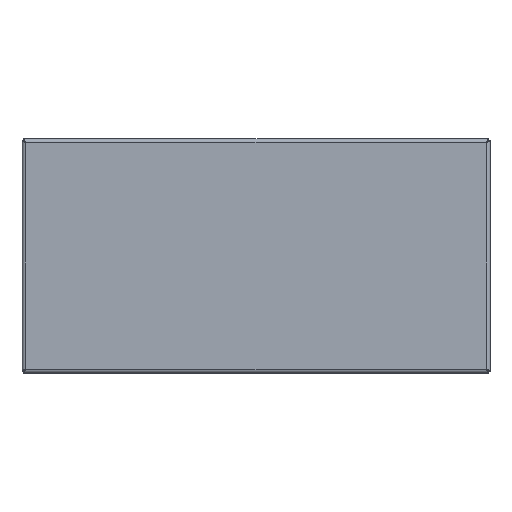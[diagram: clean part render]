
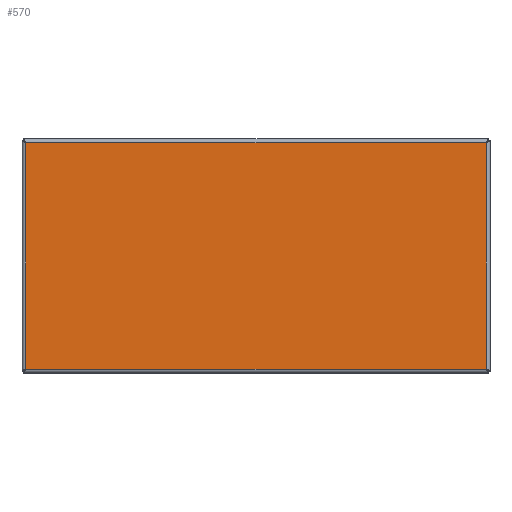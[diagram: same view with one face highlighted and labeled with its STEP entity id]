
A CAD part, top view. The second image highlights one B-rep face of the part: STEP entity #570.
In plain terms, the highlighted planar face has unit normal (0, 0, 1).
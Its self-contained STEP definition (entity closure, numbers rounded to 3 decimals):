
#36=PLANE('',#623);
#82=FACE_OUTER_BOUND('',#120,.T.);
#120=EDGE_LOOP('',(#521,#522,#523,#524));
#150=LINE('',#1297,#210);
#162=LINE('',#1320,#222);
#174=LINE('',#1343,#234);
#186=LINE('',#1366,#246);
#210=VECTOR('',#641,10.);
#222=VECTOR('',#667,10.);
#234=VECTOR('',#693,10.);
#246=VECTOR('',#719,10.);
#258=VERTEX_POINT('',#768);
#264=VERTEX_POINT('',#905);
#270=VERTEX_POINT('',#1042);
#276=VERTEX_POINT('',#1179);
#326=EDGE_CURVE('',#276,#270,#150,.T.);
#338=EDGE_CURVE('',#258,#276,#162,.T.);
#350=EDGE_CURVE('',#270,#264,#174,.T.);
#362=EDGE_CURVE('',#264,#258,#186,.T.);
#521=ORIENTED_EDGE('',*,*,#326,.T.);
#522=ORIENTED_EDGE('',*,*,#350,.T.);
#523=ORIENTED_EDGE('',*,*,#362,.T.);
#524=ORIENTED_EDGE('',*,*,#338,.T.);
#570=ADVANCED_FACE('',(#82),#36,.T.);
#623=AXIS2_PLACEMENT_3D('',#1388,#744,#745);
#641=DIRECTION('',(0.,1.,0.));
#667=DIRECTION('',(1.,0.,0.));
#693=DIRECTION('',(-1.,0.,0.));
#719=DIRECTION('',(0.,-1.,0.));
#744=DIRECTION('center_axis',(0.,0.,1.));
#745=DIRECTION('ref_axis',(1.,0.,0.));
#768=CARTESIAN_POINT('',(-98.43,-48.43,0.));
#905=CARTESIAN_POINT('',(-98.43,48.43,0.));
#1042=CARTESIAN_POINT('',(98.43,48.43,0.));
#1179=CARTESIAN_POINT('',(98.43,-48.43,0.));
#1297=CARTESIAN_POINT('',(98.43,-24.215,0.));
#1320=CARTESIAN_POINT('',(-49.215,-48.43,0.));
#1343=CARTESIAN_POINT('',(49.215,48.43,0.));
#1366=CARTESIAN_POINT('',(-98.43,24.215,0.));
#1388=CARTESIAN_POINT('Origin',(0.,0.,
0.));
